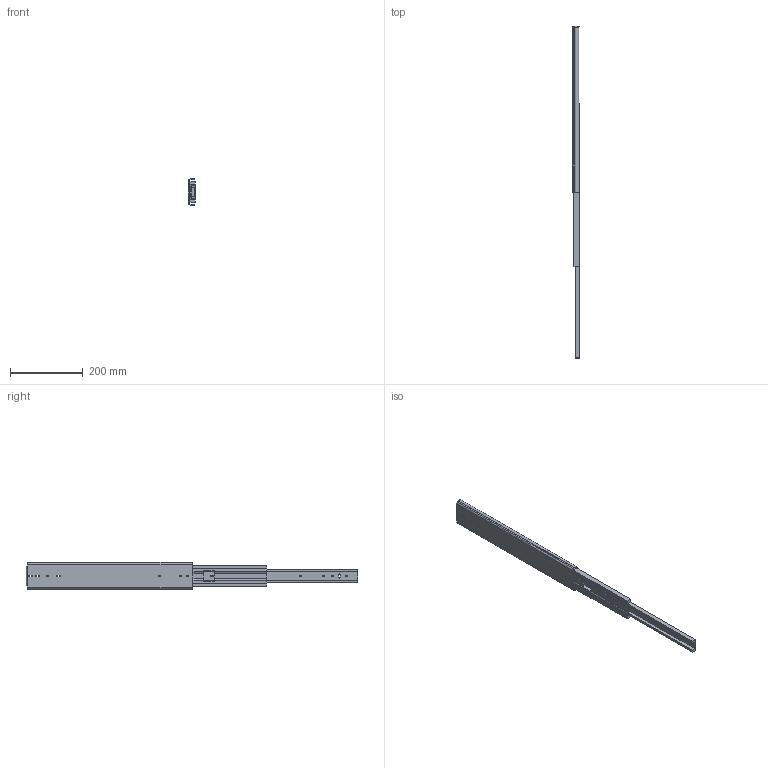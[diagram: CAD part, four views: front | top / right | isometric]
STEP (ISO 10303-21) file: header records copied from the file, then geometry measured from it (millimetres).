
FILE_DESCRIPTION(/* description */ ('Unknown'),/* implementation_level */ '2;1');
FILE_NAME(/* name */ '76J01-18 open',/* time_stamp */ '2024-07-26T15:33:34+08:00',/* author */ ('Unknown'),/* organization */ ('Unknown'),/* preprocessor_version */ 'ST-DEVELOPER v18.104',/* originating_system */ 'Solid Edge',/* authorisation */ 'Unknown');
FILE_SCHEMA (('AUTOMOTIVE_DESIGN {1 0 10303 214 3 1 1}'));
Length unit declared in the file: millimetre
Products named in the file (4): 76J01-18 open; 76J01 18 inch 內_0; 76J01 18 吋中_; 76J01 18 嬪
Assembly tree (3 placements, depth 2):
  76J01-18 open
    76J01 18 inch 內_0
    76J01 18 吋中_
    76J01 18 嬪
Bounding box: 19.3 x 913.7 x 76.76 mm (x, y, z)
Volume: 356625.7 mm3; surface area: 223272.8 mm2
Topology: 3 solids, 3 shells, 168 faces, 507 edges, 341 vertices
Faces by surface type: plane 94, cylinder 74
Full cylindrical faces by diameter (mm): 5.2 x8, 7.1 x1
Entity records: 6143 total; most frequent: CARTESIAN_POINT 996, DIRECTION 981, ORIENTED_EDGE 978, EDGE_CURVE 489, LINE 339, VECTOR 339, VERTEX_POINT 332, AXIS2_PLACEMENT_3D 321
